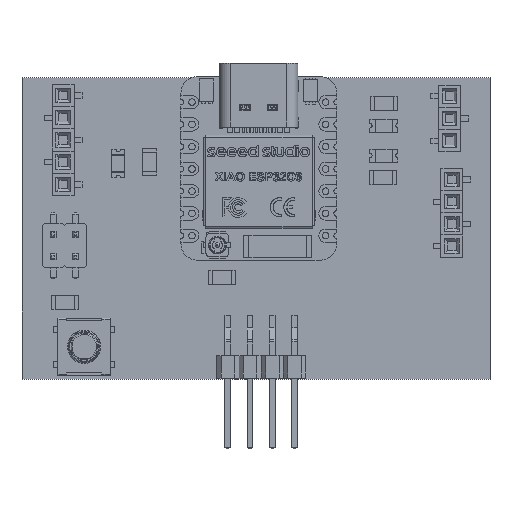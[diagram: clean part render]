
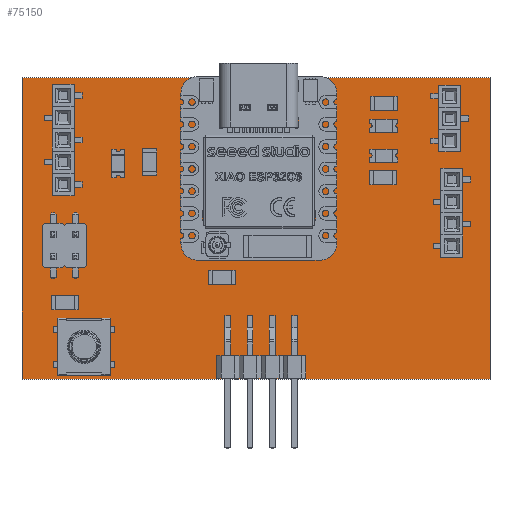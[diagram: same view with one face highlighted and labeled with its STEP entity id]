
A CAD part, top view. The second image highlights one B-rep face of the part: STEP entity #75150.
In plain terms, the highlighted planar face has unit normal (0, 0, 1).
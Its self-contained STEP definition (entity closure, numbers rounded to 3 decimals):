
#75021 = VERTEX_POINT('',#75022);
#75022 = CARTESIAN_POINT('',(185.5,-113.,1.51));
#75028 = EDGE_CURVE('',#75021,#75029,#75031,.T.);
#75029 = VERTEX_POINT('',#75030);
#75030 = CARTESIAN_POINT('',(132.1,-113.,1.51));
#75031 = LINE('',#75032,#75033);
#75032 = CARTESIAN_POINT('',(185.5,-113.,1.51));
#75033 = VECTOR('',#75034,1.);
#75034 = DIRECTION('',(-1.,0.,0.));
#75059 = EDGE_CURVE('',#75029,#75060,#75062,.T.);
#75060 = VERTEX_POINT('',#75061);
#75061 = CARTESIAN_POINT('',(132.1,-78.6,1.51));
#75062 = LINE('',#75063,#75064);
#75063 = CARTESIAN_POINT('',(132.1,-113.,1.51));
#75064 = VECTOR('',#75065,1.);
#75065 = DIRECTION('',(0.,1.,0.));
#75090 = EDGE_CURVE('',#75060,#75091,#75093,.T.);
#75091 = VERTEX_POINT('',#75092);
#75092 = CARTESIAN_POINT('',(185.5,-78.6,1.51));
#75093 = LINE('',#75094,#75095);
#75094 = CARTESIAN_POINT('',(132.1,-78.6,1.51));
#75095 = VECTOR('',#75096,1.);
#75096 = DIRECTION('',(1.,0.,0.));
#75121 = EDGE_CURVE('',#75091,#75021,#75122,.T.);
#75122 = LINE('',#75123,#75124);
#75123 = CARTESIAN_POINT('',(185.5,-78.6,1.51));
#75124 = VECTOR('',#75125,1.);
#75125 = DIRECTION('',(0.,-1.,0.));
#75150 = ADVANCED_FACE('',(#75151),#75157,.T.);
#75151 = FACE_BOUND('',#75152,.F.);
#75152 = EDGE_LOOP('',(#75153,#75154,#75155,#75156));
#75153 = ORIENTED_EDGE('',*,*,#75028,.T.);
#75154 = ORIENTED_EDGE('',*,*,#75059,.T.);
#75155 = ORIENTED_EDGE('',*,*,#75090,.T.);
#75156 = ORIENTED_EDGE('',*,*,#75121,.T.);
#75157 = PLANE('',#75158);
#75158 = AXIS2_PLACEMENT_3D('',#75159,#75160,#75161);
#75159 = CARTESIAN_POINT('',(0.,0.,1.51));
#75160 = DIRECTION('',(0.,0.,1.));
#75161 = DIRECTION('',(1.,0.,-0.));
